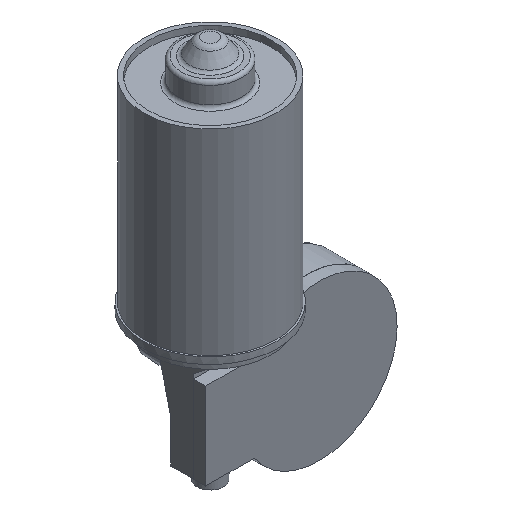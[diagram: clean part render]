
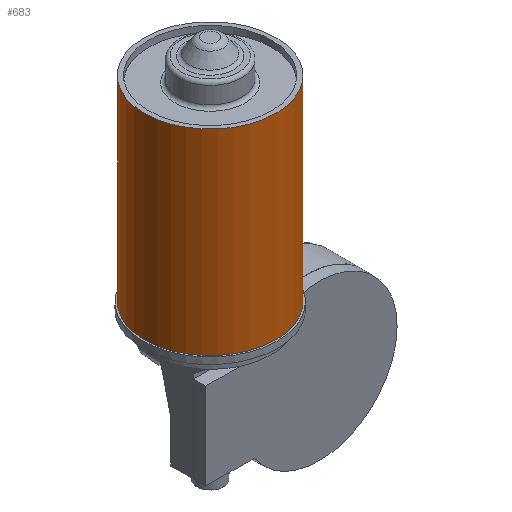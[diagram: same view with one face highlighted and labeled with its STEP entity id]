
A CAD part, isometric view. The second image highlights one B-rep face of the part: STEP entity #683.
In plain terms, the highlighted cylindrical face has radius 30 mm (diameter 60 mm), a full revolution.
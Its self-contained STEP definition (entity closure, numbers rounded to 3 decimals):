
#297=FACE_BOUND('',#1279,.T.);
#298=FACE_BOUND('',#1280,.T.);
#373=CYLINDRICAL_SURFACE('',#4429,30.);
#486=CIRCLE('',#4427,30.);
#487=CIRCLE('',#4428,30.);
#683=ADVANCED_FACE('',(#297,#298),#373,.T.);
#1279=EDGE_LOOP('',(#1945));
#1280=EDGE_LOOP('',(#1946));
#1945=ORIENTED_EDGE('',*,*,#3301,.T.);
#1946=ORIENTED_EDGE('',*,*,#3302,.F.);
#2811=VERTEX_POINT('',#6377);
#2812=VERTEX_POINT('',#6379);
#3301=EDGE_CURVE('',#2811,#2811,#486,.T.);
#3302=EDGE_CURVE('',#2812,#2812,#487,.T.);
#4427=AXIS2_PLACEMENT_3D('',#6376,#5215,#5216);
#4428=AXIS2_PLACEMENT_3D('',#6378,#5217,#5218);
#4429=AXIS2_PLACEMENT_3D('',#6380,#5219,#5220);
#5215=DIRECTION('',(0.,0.,1.));
#5216=DIRECTION('',(1.,0.,0.));
#5217=DIRECTION('',(0.,0.,1.));
#5218=DIRECTION('',(1.,0.,0.));
#5219=DIRECTION('',(0.,0.,1.));
#5220=DIRECTION('',(1.,0.,0.));
#6376=CARTESIAN_POINT('',(400.,0.,0.));
#6377=CARTESIAN_POINT('',(430.,0.,0.));
#6378=CARTESIAN_POINT('',(400.,0.,89.5));
#6379=CARTESIAN_POINT('',(430.,0.,89.5));
#6380=CARTESIAN_POINT('',(400.,0.,0.));
